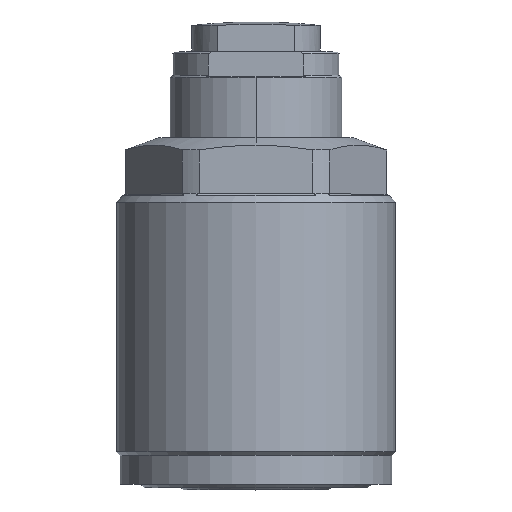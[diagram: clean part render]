
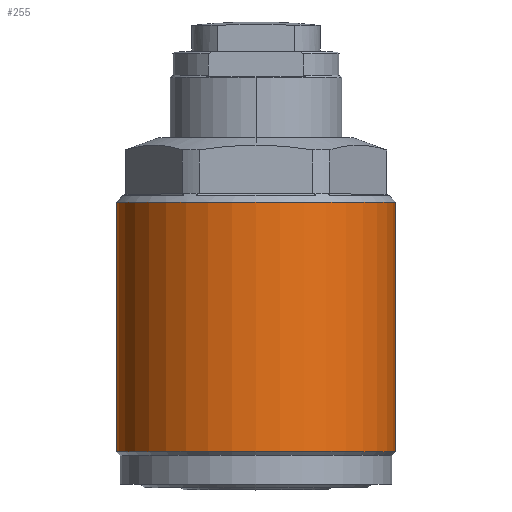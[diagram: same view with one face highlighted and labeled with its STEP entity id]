
A CAD part, top view. The second image highlights one B-rep face of the part: STEP entity #255.
In plain terms, the highlighted cylindrical face has radius 32.5 mm (diameter 65 mm), a partial arc.
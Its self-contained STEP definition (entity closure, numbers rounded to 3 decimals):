
#197=CYLINDRICAL_SURFACE('',#1619,32.5);
#255=ADVANCED_FACE('',(#363),#197,.T.);
#363=FACE_OUTER_BOUND('',#449,.T.);
#449=EDGE_LOOP('',(#792,#793,#794,#795));
#544=LINE('',#2375,#619);
#545=LINE('',#2379,#620);
#619=VECTOR('',#1914,1.);
#620=VECTOR('',#1917,1.);
#792=ORIENTED_EDGE('',*,*,#1305,.T.);
#793=ORIENTED_EDGE('',*,*,#1307,.T.);
#794=ORIENTED_EDGE('',*,*,#1308,.T.);
#795=ORIENTED_EDGE('',*,*,#1309,.F.);
#1149=VERTEX_POINT('',#2370);
#1150=VERTEX_POINT('',#2372);
#1151=VERTEX_POINT('',#2376);
#1152=VERTEX_POINT('',#2378);
#1305=EDGE_CURVE('',#1150,#1149,#1488,.T.);
#1307=EDGE_CURVE('',#1149,#1151,#544,.T.);
#1308=EDGE_CURVE('',#1151,#1152,#1489,.T.);
#1309=EDGE_CURVE('',#1150,#1152,#545,.T.);
#1488=CIRCLE('',#1616,32.5);
#1489=CIRCLE('',#1618,32.5);
#1616=AXIS2_PLACEMENT_3D('',#2371,#1909,#1910);
#1618=AXIS2_PLACEMENT_3D('',#2377,#1915,#1916);
#1619=AXIS2_PLACEMENT_3D('',#2380,#1918,#1919);
#1909=DIRECTION('',(-1.,0.,0.));
#1910=DIRECTION('',(0.,0.,1.));
#1914=DIRECTION('',(-1.,0.,0.));
#1915=DIRECTION('',(1.,0.,0.));
#1916=DIRECTION('',(0.,0.,-1.));
#1917=DIRECTION('',(-1.,0.,0.));
#1918=DIRECTION('',(-1.,0.,0.));
#1919=DIRECTION('',(0.,0.,-1.));
#2370=CARTESIAN_POINT('',(73.1,0.,-32.5));
#2371=CARTESIAN_POINT('',(73.1,0.,0.));
#2372=CARTESIAN_POINT('',(73.1,0.,32.5));
#2375=CARTESIAN_POINT('',(80.7,0.,-32.5));
#2376=CARTESIAN_POINT('',(15.,0.,-32.5));
#2377=CARTESIAN_POINT('',(15.,0.,0.));
#2378=CARTESIAN_POINT('',(15.,0.,32.5));
#2379=CARTESIAN_POINT('',(80.7,0.,32.5));
#2380=CARTESIAN_POINT('',(80.7,0.,0.));
